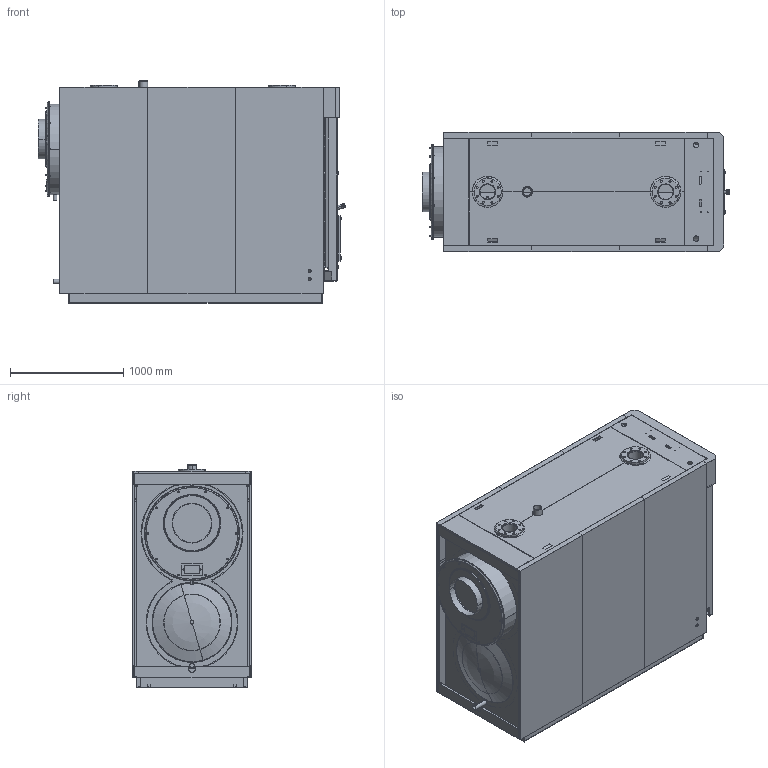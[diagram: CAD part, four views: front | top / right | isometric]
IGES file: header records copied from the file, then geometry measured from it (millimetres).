
Start section: START RECORD GO HERE.
Global section: file name: RTS_1012-1200 2S.igs; native system: DASSAULT SYSTEMES CATIA V5 R20 - www.3ds.com; preprocessor: CATIA Version 5 Release 20 SP 6 ; author: Riello S.p.A.; organization: RIELLO-IT; date: 20131031.102749; units: millimetre
Bounding box: 2708.89 x 1047 x 1958 mm (x, y, z)
Surface area: 69660450.7 mm2 (no closed solid volume)
Topology: 0 solids, 0 shells, 4191 faces, 19806 edges, 19773 vertices
Faces by surface type: plane 2308, revolution 1835, bspline 48
